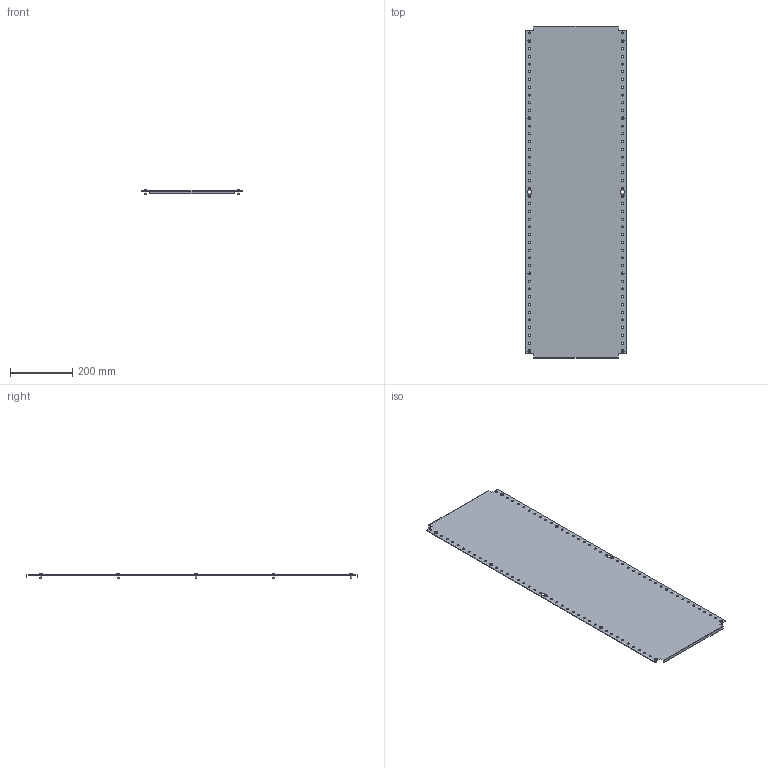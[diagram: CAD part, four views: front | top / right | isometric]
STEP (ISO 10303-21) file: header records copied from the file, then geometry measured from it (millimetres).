
FILE_DESCRIPTION (( 'STEP AP203' ), '1' );
FILE_NAME ('R6MP1240.STEP', '2025-03-28T12:05:32', ( '' ), ( '' ), 'SwSTEP 2.0', 'SolidWorks 2022', '' );
FILE_SCHEMA (( 'CONFIG_CONTROL_DESIGN' ));
Length unit declared in the file: millimetre
Products named in the file (3): M5x12 DIN 7500 C Torx Zinc_stright; RB.3293.00.00.0_-05; R6MP1240
Assembly tree (11 placements, depth 2):
  R6MP1240
    RB.3293.00.00.0_-05
    M5x12 DIN 7500 C Torx Zinc_stright  x10
Bounding box: 325 x 1070 x 15.56 mm (x, y, z)
Volume: 629763.8 mm3; surface area: 707595.3 mm2
Topology: 11 solids, 11 shells, 278 faces, 648 edges, 402 vertices
Faces by surface type: plane 110, cylinder 108, torus 20, cone 20, sphere 10, bspline 10
Full cylindrical faces by diameter (mm): 5 x10, 6.5 x84, 9.5 x10
Entity records: 5061 total; most frequent: CARTESIAN_POINT 882, DIRECTION 760, ORIENTED_EDGE 568, EDGE_LOOP 398, AXIS2_PLACEMENT_3D 336, EDGE_CURVE 284, VERTEX_POINT 246, FACE_OUTER_BOUND 224
